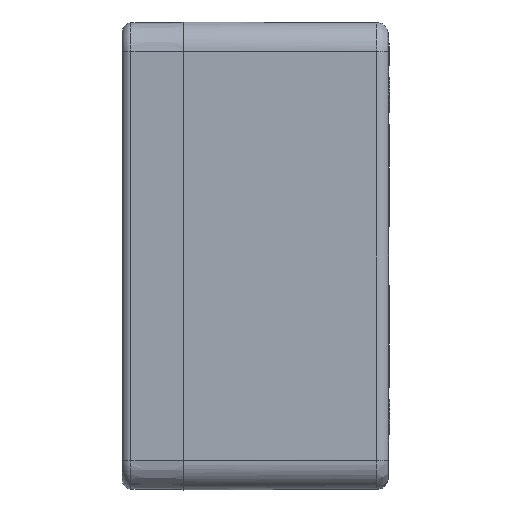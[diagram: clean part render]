
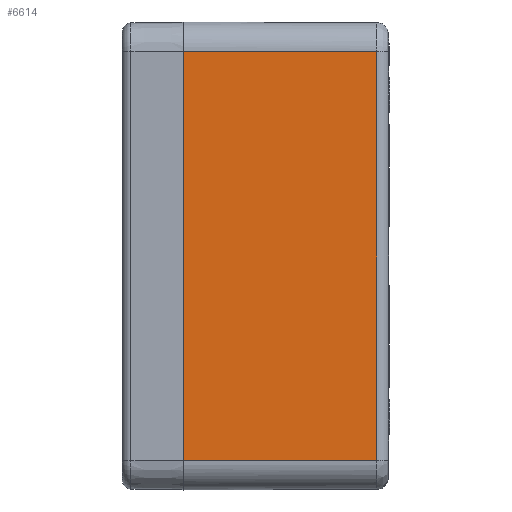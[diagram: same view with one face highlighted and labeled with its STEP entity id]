
A CAD part, left-side view. The second image highlights one B-rep face of the part: STEP entity #6614.
In plain terms, the highlighted planar face has unit normal (-1, -0.002, 0).
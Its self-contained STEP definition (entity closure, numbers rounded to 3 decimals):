
#656=CARTESIAN_POINT('',(-180.,0.,-70.));
#704=CARTESIAN_POINT('',(-180.,0.,70.));
#715=DIRECTION('',(0.,0.,-1.));
#716=VECTOR('',#715,140.);
#717=CARTESIAN_POINT('',(-180.,0.,70.));
#718=LINE('',#717,#716);
#2801=DIRECTION('',(0.,0.,1.));
#2802=VECTOR('',#2801,139.717);
#2803=CARTESIAN_POINT('',(-179.859,-66.009,
-69.859));
#2804=LINE('',#2803,#2802);
#2850=DIRECTION('',(-0.002,1.,-0.002));
#2851=VECTOR('',#2850,66.009);
#2852=CARTESIAN_POINT('',(-179.859,-66.009,
-69.859));
#2853=LINE('',#2852,#2851);
#2857=DIRECTION('',(-0.002,1.,0.002));
#2858=VECTOR('',#2857,66.009);
#2859=CARTESIAN_POINT('',(-179.859,-66.009,
69.859));
#2860=LINE('',#2859,#2858);
#2864=CARTESIAN_POINT('',(-179.859,-66.009,
-69.859));
#2971=CARTESIAN_POINT('',(-179.859,-66.009,
69.859));
#3698=VERTEX_POINT('',#656);
#3703=VERTEX_POINT('',#704);
#3707=VERTEX_POINT('',#2864);
#3724=VERTEX_POINT('',#2971);
#6601=CARTESIAN_POINT('',(-179.925,-35.,0.));
#6602=DIRECTION('',(1.,0.002,0.));
#6603=DIRECTION('',(-0.002,1.,0.));
#6604=AXIS2_PLACEMENT_3D('',#6601,#6602,#6603);
#6605=PLANE('',#6604);
#6606=ORIENTED_EDGE('',*,*,#6561,.F.);
#6608=ORIENTED_EDGE('',*,*,#6607,.T.);
#6609=ORIENTED_EDGE('',*,*,#4192,.F.);
#6611=ORIENTED_EDGE('',*,*,#6610,.F.);
#6612=EDGE_LOOP('',(#6606,#6608,#6609,#6611));
#6613=FACE_OUTER_BOUND('',#6612,.F.);
#4192=EDGE_CURVE('',#3703,#3698,#718,.T.);
#6561=EDGE_CURVE('',#3707,#3724,#2804,.T.);
#6607=EDGE_CURVE('',#3707,#3698,#2853,.T.);
#6610=EDGE_CURVE('',#3724,#3703,#2860,.T.);
#6614=ADVANCED_FACE('',(#6613),#6605,.F.);
